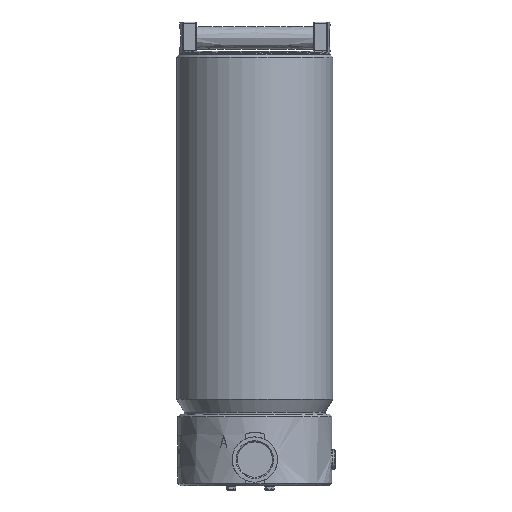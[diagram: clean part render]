
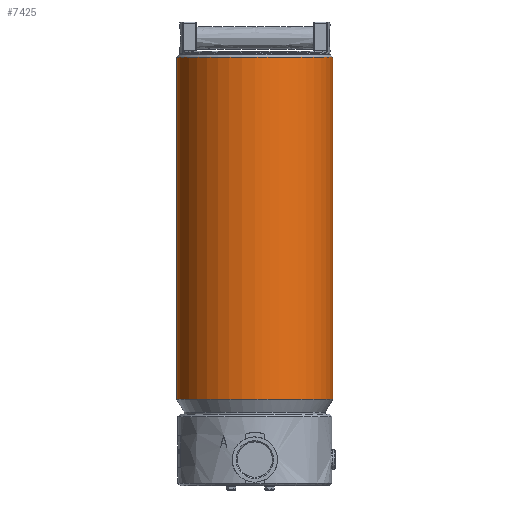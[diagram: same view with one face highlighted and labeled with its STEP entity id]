
A CAD part, left-side view. The second image highlights one B-rep face of the part: STEP entity #7425.
In plain terms, the highlighted free-form (B-spline) face has degree [2, 1] with [7, 2] control points.
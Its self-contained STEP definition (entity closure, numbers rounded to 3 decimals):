
#7346=CARTESIAN_POINT('V73',(-72.591,-0.846,
   334.9));
#7347=VERTEX_POINT('V73',#7346);
#7353=CARTESIAN_POINT('E104',(-72.591,-0.846,
   334.9));
#7354=CARTESIAN_POINT('E104',(-72.591,
   118.665,334.9));
#7355=CARTESIAN_POINT('E104',(30.909,58.91,
   334.9));
#7356=CARTESIAN_POINT('E104',(134.409,-0.846,
   334.9));
#7357=CARTESIAN_POINT('E104',(30.909,-60.602,
   334.9));
#7358=CARTESIAN_POINT('E104',(-72.591,
   -120.358,334.9));
#7359=CARTESIAN_POINT('E104',(-72.591,-0.846,
   334.9));
#7367=(BOUNDED_CURVE()B_SPLINE_CURVE(2,(#7353,#7354,#7355,#7356,
   #7357,#7358,#7359),.CIRCULAR_ARC.,.T.,.U.)
   B_SPLINE_CURVE_WITH_KNOTS((3,2,2,3),(0.0,0.791,
   1.582,2.373),.UNSPECIFIED.)CURVE()
   GEOMETRIC_REPRESENTATION_ITEM()RATIONAL_B_SPLINE_CURVE((1.0,
   0.5,1.0,0.5,1.0,0.5,1.0)
   )REPRESENTATION_ITEM('E104'));
#7368=EDGE_CURVE('E104',#7347,#7347,#7367,.T.);
#7375=CARTESIAN_POINT('F46',(-72.591,-0.846,
   32.658));
#7376=CARTESIAN_POINT('F46',(-72.591,
   -120.358,32.658));
#7377=CARTESIAN_POINT('F46',(30.909,-60.602,
   32.658));
#7378=CARTESIAN_POINT('F46',(134.409,-0.846,
   32.658));
#7379=CARTESIAN_POINT('F46',(30.909,58.91,
   32.658));
#7380=CARTESIAN_POINT('F46',(-72.591,118.665,
   32.658));
#7381=CARTESIAN_POINT('F46',(-72.591,-0.846,
   32.658));
#7382=CARTESIAN_POINT('F46',(-72.591,-0.846,
   334.9));
#7383=CARTESIAN_POINT('F46',(-72.591,
   -120.358,334.9));
#7384=CARTESIAN_POINT('F46',(30.909,-60.602,
   334.9));
#7385=CARTESIAN_POINT('F46',(134.409,-0.846,
   334.9));
#7386=CARTESIAN_POINT('F46',(30.909,58.91,
   334.9));
#7387=CARTESIAN_POINT('F46',(-72.591,118.665,
   334.9));
#7388=CARTESIAN_POINT('F46',(-72.591,-0.846,
   334.9));
#7396=(BOUNDED_SURFACE()B_SPLINE_SURFACE(2,1,((#7375,#7382),(
   #7376,#7383),(#7377,#7384),(#7378,#7385),(#7379,#7386),(
   #7380,#7387),(#7381,#7388)),.CYLINDRICAL_SURF.,.T.,.F.,.U.)
   B_SPLINE_SURFACE_WITH_KNOTS((3,2,2,3),(2,2),(0.0,
   0.791,1.582,2.373),(0.0,1.0),
   .UNSPECIFIED.)GEOMETRIC_REPRESENTATION_ITEM()
   RATIONAL_B_SPLINE_SURFACE(((1.0,1.0),(0.5,
   0.5),(1.0,1.0),(0.5,
   0.5),(1.0,1.0),(0.5,
   0.5),(1.0,1.0)))REPRESENTATION_ITEM('F46')SURFACE(
   ));
#7397=CARTESIAN_POINT('V74',(-72.591,-0.846,
   32.658));
#7398=VERTEX_POINT('V74',#7397);
#7399=CARTESIAN_POINT('E106',(-72.591,-0.846,
   334.9));
#7400=CARTESIAN_POINT('E106',(-72.591,-0.846,
   32.658));
#7401=QUASI_UNIFORM_CURVE('E106',1,(#7399,#7400),.POLYLINE_FORM.,.F.,
   .U.);
#7402=EDGE_CURVE('E106',#7347,#7398,#7401,.T.);
#7403=ORIENTED_EDGE('E106',*,*,#7402,.T.);
#7404=CARTESIAN_POINT('E107',(-72.591,-0.846,
   32.658));
#7405=CARTESIAN_POINT('E107',(-72.591,
   118.665,32.658));
#7406=CARTESIAN_POINT('E107',(30.909,58.91,
   32.658));
#7407=CARTESIAN_POINT('E107',(134.409,-0.846,
   32.658));
#7408=CARTESIAN_POINT('E107',(30.909,-60.602,
   32.658));
#7409=CARTESIAN_POINT('E107',(-72.591,
   -120.358,32.658));
#7410=CARTESIAN_POINT('E107',(-72.591,-0.846,
   32.658));
#7418=(BOUNDED_CURVE()B_SPLINE_CURVE(2,(#7404,#7405,#7406,#7407,
   #7408,#7409,#7410),.CIRCULAR_ARC.,.T.,.U.)
   B_SPLINE_CURVE_WITH_KNOTS((3,2,2,3),(0.0,17.52,
   35.041,52.561),.UNSPECIFIED.)CURVE()
   GEOMETRIC_REPRESENTATION_ITEM()RATIONAL_B_SPLINE_CURVE((1.0,
   0.5,1.0,0.5,1.0,0.5,1.0)
   )REPRESENTATION_ITEM('E107'));
#7419=EDGE_CURVE('E107',#7398,#7398,#7418,.T.);
#7420=ORIENTED_EDGE('E107',*,*,#7419,.F.);
#7421=ORIENTED_EDGE('E106',*,*,#7402,.F.);
#7422=ORIENTED_EDGE('E104',*,*,#7368,.T.);
#7423=EDGE_LOOP('F46',(#7403,#7420,#7421,#7422));
#7424=FACE_OUTER_BOUND('F46',#7423,.T.);
#7425=ADVANCED_FACE('F46',(#7424),#7396,.T.);
